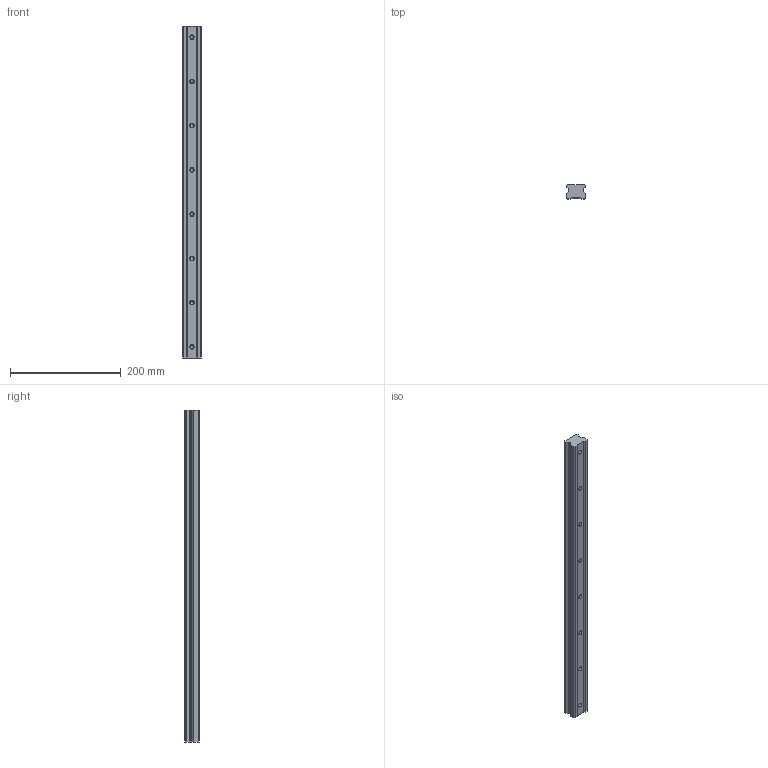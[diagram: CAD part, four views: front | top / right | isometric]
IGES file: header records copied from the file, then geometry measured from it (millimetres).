
Start section: SolidWorks IGES file using analytic representation for surfaces
Global section: file name: C:\Users\IanO\Desktop\Temp File\GENERAL\L1016_v2\L1016.RF35_v2\L1016.RF35_v2_20190612_IGES\L1016.RF35-0600.igs; native system: SolidWorks 2017; preprocessor: SolidWorks 2017; author: IanO; date: 190613.172538; units: millimetre
Bounding box: 34 x 26 x 600 mm (x, y, z)
Surface area: 79589.9 mm2 (no closed solid volume)
Topology: 0 solids, 0 shells, 82 faces, 1128 edges, 1112 vertices
Faces by surface type: revolution 52, bspline 30
